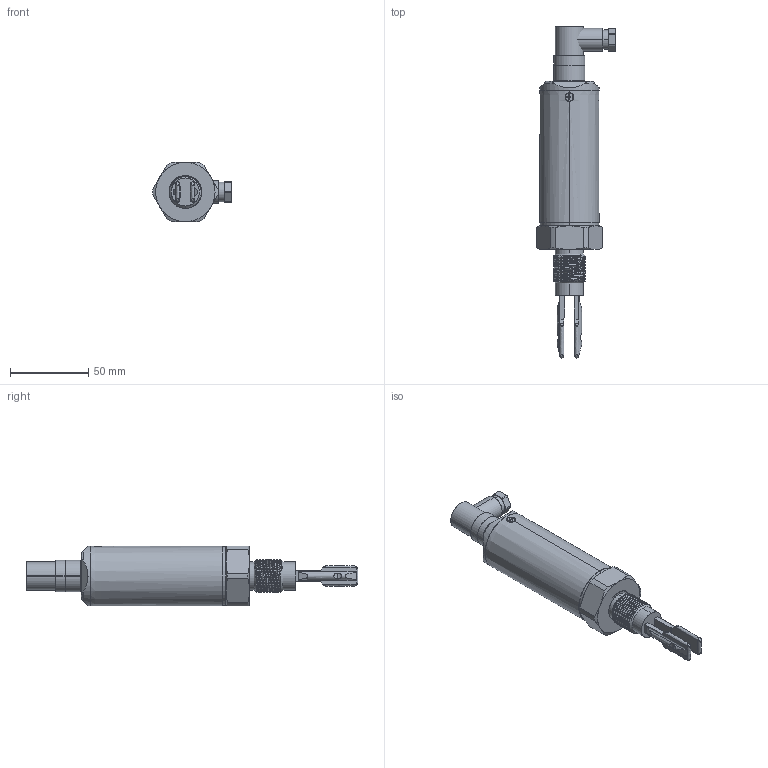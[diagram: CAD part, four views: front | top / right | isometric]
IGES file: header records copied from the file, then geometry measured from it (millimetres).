
Start section: SolidWorks IGES file using analytic representation for surfaces
Bounding box: 50.49 x 212.5 x 38 mm (x, y, z)
Surface area: 26789.6 mm2 (no closed solid volume)
Topology: 0 solids, 0 shells, 185 faces, 3434 edges, 3432 vertices
Faces by surface type: revolution 111, bspline 74
